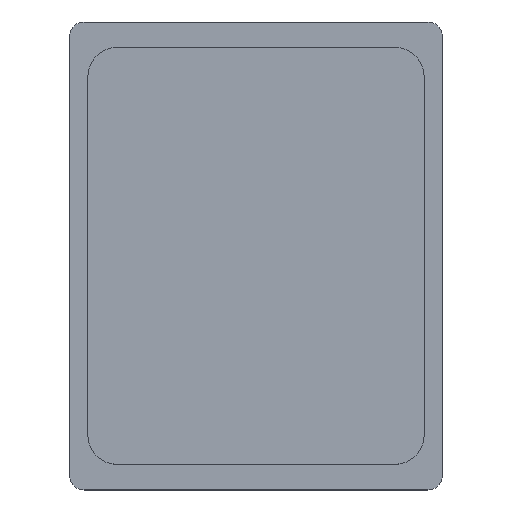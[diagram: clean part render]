
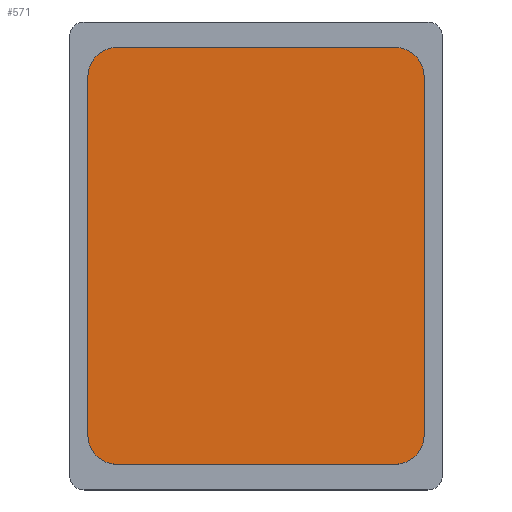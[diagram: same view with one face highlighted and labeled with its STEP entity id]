
A CAD part, top view. The second image highlights one B-rep face of the part: STEP entity #571.
In plain terms, the highlighted planar face has unit normal (0, 0, 1).
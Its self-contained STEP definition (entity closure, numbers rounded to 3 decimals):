
#380 = VERTEX_POINT('',#381);
#381 = CARTESIAN_POINT('',(-23.,24.5,8.));
#387 = EDGE_CURVE('',#380,#388,#390,.T.);
#388 = VERTEX_POINT('',#389);
#389 = CARTESIAN_POINT('',(-23.,-24.5,8.));
#390 = LINE('',#391,#392);
#391 = CARTESIAN_POINT('',(-23.,24.5,8.));
#392 = VECTOR('',#393,1.);
#393 = DIRECTION('',(0.,-1.,0.));
#411 = EDGE_CURVE('',#388,#412,#414,.T.);
#412 = VERTEX_POINT('',#413);
#413 = CARTESIAN_POINT('',(-19.,-28.5,8.));
#414 = CIRCLE('',#415,4.);
#415 = AXIS2_PLACEMENT_3D('',#416,#417,#418);
#416 = CARTESIAN_POINT('',(-19.,-24.5,8.));
#417 = DIRECTION('',(0.,0.,1.));
#418 = DIRECTION('',(1.,0.,0.));
#436 = EDGE_CURVE('',#412,#437,#439,.T.);
#437 = VERTEX_POINT('',#438);
#438 = CARTESIAN_POINT('',(19.,-28.5,8.));
#439 = LINE('',#440,#441);
#440 = CARTESIAN_POINT('',(-19.,-28.5,8.));
#441 = VECTOR('',#442,1.);
#442 = DIRECTION('',(1.,0.,0.));
#460 = EDGE_CURVE('',#437,#461,#463,.T.);
#461 = VERTEX_POINT('',#462);
#462 = CARTESIAN_POINT('',(23.,-24.5,8.));
#463 = CIRCLE('',#464,4.);
#464 = AXIS2_PLACEMENT_3D('',#465,#466,#467);
#465 = CARTESIAN_POINT('',(19.,-24.5,8.));
#466 = DIRECTION('',(0.,0.,1.));
#467 = DIRECTION('',(1.,0.,0.));
#485 = EDGE_CURVE('',#461,#486,#488,.T.);
#486 = VERTEX_POINT('',#487);
#487 = CARTESIAN_POINT('',(23.,24.5,8.));
#488 = LINE('',#489,#490);
#489 = CARTESIAN_POINT('',(23.,-24.5,8.));
#490 = VECTOR('',#491,1.);
#491 = DIRECTION('',(0.,1.,0.));
#509 = EDGE_CURVE('',#486,#510,#512,.T.);
#510 = VERTEX_POINT('',#511);
#511 = CARTESIAN_POINT('',(19.,28.5,8.));
#512 = CIRCLE('',#513,4.);
#513 = AXIS2_PLACEMENT_3D('',#514,#515,#516);
#514 = CARTESIAN_POINT('',(19.,24.5,8.));
#515 = DIRECTION('',(0.,0.,1.));
#516 = DIRECTION('',(1.,0.,0.));
#534 = EDGE_CURVE('',#510,#535,#537,.T.);
#535 = VERTEX_POINT('',#536);
#536 = CARTESIAN_POINT('',(-19.,28.5,8.));
#537 = LINE('',#538,#539);
#538 = CARTESIAN_POINT('',(19.,28.5,8.));
#539 = VECTOR('',#540,1.);
#540 = DIRECTION('',(-1.,0.,0.));
#558 = EDGE_CURVE('',#535,#380,#559,.T.);
#559 = CIRCLE('',#560,4.);
#560 = AXIS2_PLACEMENT_3D('',#561,#562,#563);
#561 = CARTESIAN_POINT('',(-19.,24.5,8.));
#562 = DIRECTION('',(0.,0.,1.));
#563 = DIRECTION('',(1.,0.,0.));
#571 = ADVANCED_FACE('',(#572),#582,.T.);
#572 = FACE_BOUND('',#573,.T.);
#573 = EDGE_LOOP('',(#574,#575,#576,#577,#578,#579,#580,#581));
#574 = ORIENTED_EDGE('',*,*,#387,.T.);
#575 = ORIENTED_EDGE('',*,*,#411,.T.);
#576 = ORIENTED_EDGE('',*,*,#436,.T.);
#577 = ORIENTED_EDGE('',*,*,#460,.T.);
#578 = ORIENTED_EDGE('',*,*,#485,.T.);
#579 = ORIENTED_EDGE('',*,*,#509,.T.);
#580 = ORIENTED_EDGE('',*,*,#534,.T.);
#581 = ORIENTED_EDGE('',*,*,#558,.T.);
#582 = PLANE('',#583);
#583 = AXIS2_PLACEMENT_3D('',#584,#585,#586);
#584 = CARTESIAN_POINT('',(0.,0.,8.));
#585 = DIRECTION('',(0.,0.,1.));
#586 = DIRECTION('',(1.,0.,0.));
